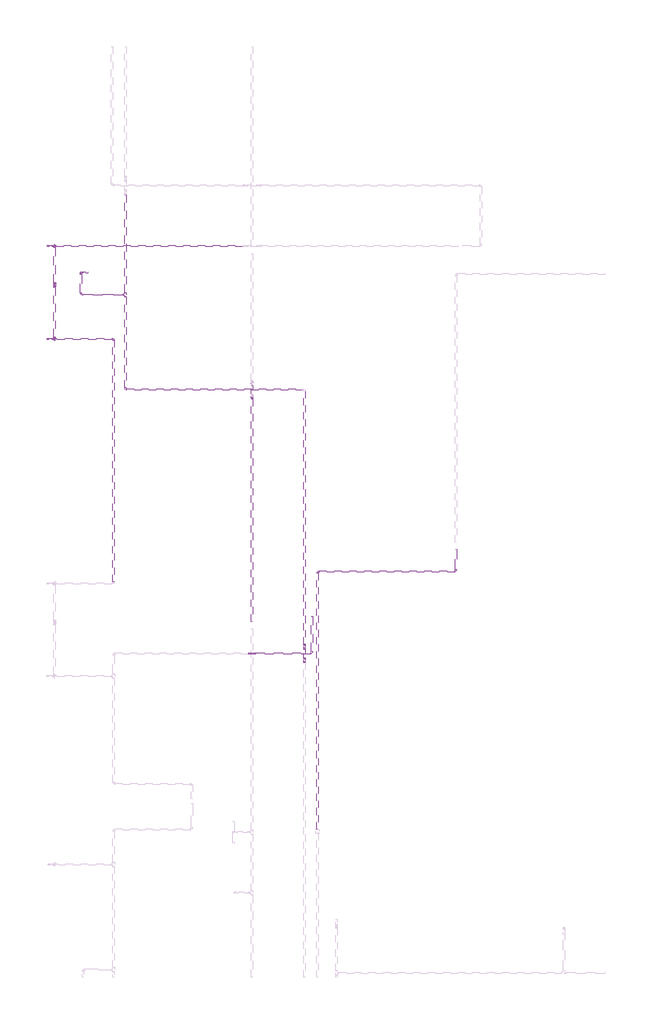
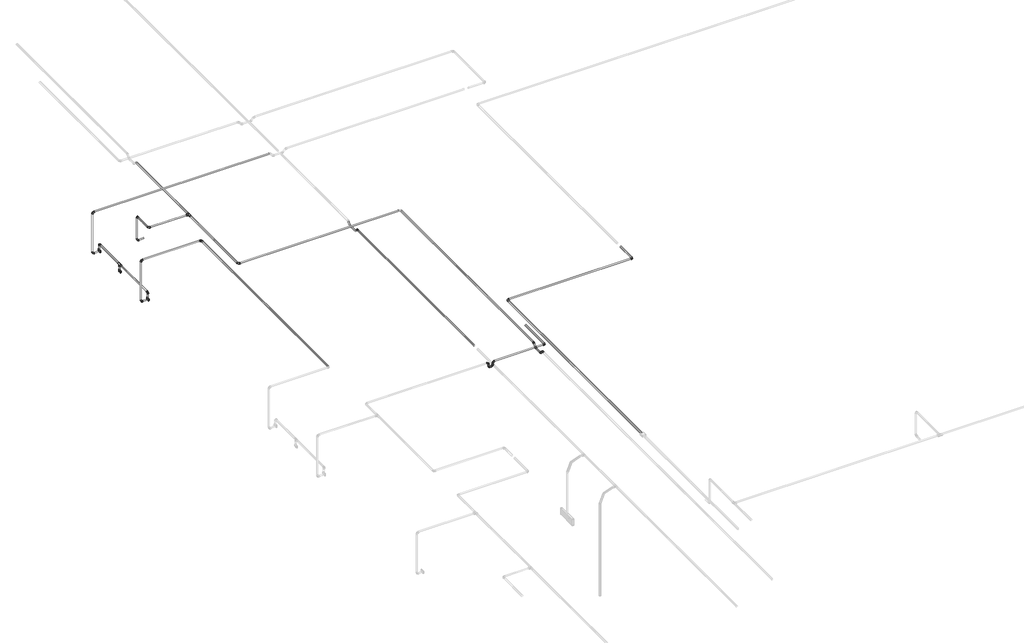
# One storey, part 16 of 40: 35 cable carrier segments, 25 cable carrier fittings, 3 electric appliances.
"""IFC4 building model written with IfcOpenShell, lengths in millimetres."""

from ifc_helpers import new_model, si_unit, point, frame, frame_2d, origin, place, context, project, spatial, circle_curve, trimmed, segment, composite_curve, outline, extrude, transform, mapped, element, save
from ifc_brep_helpers import plane_surface, cylinder_surface, advanced_brep
from components import cable_carrier_fitting_69f1a801, cable_carrier_fitting_8122f9af, cable_carrier_fitting_546e5f75, cable_carrier_fitting_8fd13dfc, cable_carrier_fitting_de8e6b1f, electric_appliance_5961a143

model = new_model("IFC4")

# Units and contexts
model_context = context("Model", 3, world=origin())
ifc_project = project(units=[si_unit("LENGTHUNIT", "METRE", prefix="MILLI")], contexts=[model_context])

# Site, building, storey
site = spatial("IfcSite", under=ifc_project)
building = spatial("IfcBuilding", under=site)
storey = spatial("IfcBuildingStorey", under=building, Name="1 этаж", Elevation=0.0)

# Cable carrier fittings
placement = place(None, origin())
cable_carrier_fitting_shape = cable_carrier_fitting_69f1a801(model_context)
element("IfcCableCarrierFitting", 1, ObjectType="ADSK_Поворот_Минимальный размер : Неспецифицируемый", at=placement, inside=storey, context=model_context, shape_type="MappedRepresentation", body=[
    mapped(cable_carrier_fitting_shape, transform((-38286.3240021, 14272.1370105, 2650.0), x_axis=(0.0, -1.0, 0.0), y_axis=(0.0, 0.0, -1.0), z_axis=(1.0, 0.0, 0.0))),
])
element("IfcCableCarrierFitting", 2, ObjectType="ADSK_Поворот_Минимальный размер : Неспецифицируемый", at=placement, inside=storey, context=model_context, shape_type="MappedRepresentation", body=[
    mapped(cable_carrier_fitting_shape, transform((-38386.5238077, 14272.1370105, 2534.0911237), x_axis=(0.0, 0.0, -1.0), y_axis=(1.0, 0.0, 0.0), z_axis=(0.0, -1.0, 0.0))),
])
element("IfcCableCarrierFitting", 3, ObjectType="ADSK_Поворот_Минимальный размер : Неспецифицируемый", at=placement, inside=storey, context=model_context, shape_type="MappedRepresentation", body=[
    mapped(cable_carrier_fitting_shape, transform((-38386.5238077, 15526.1370105, 2534.0911237), x_axis=(0.0, 0.0, -1.0), y_axis=(1.0, 0.0, 0.0), z_axis=(0.0, -1.0, 0.0))),
])
element("IfcCableCarrierFitting", 4, ObjectType="ADSK_Поворот_Минимальный размер : Неспецифицируемый", at=placement, inside=storey, context=model_context, shape_type="MappedRepresentation", body=[
    mapped(cable_carrier_fitting_shape, transform((-35592.7387758, 10024.6370105, 3120.0), x_axis=(0.0, 0.0, -1.0), y_axis=(-1.0, 0.0, 0.0), z_axis=(0.0, 1.0, 0.0))),
])
element("IfcCableCarrierFitting", 5, ObjectType="ADSK_Поворот_Минимальный размер : Неспецифицируемый", at=placement, inside=storey, context=model_context, shape_type="MappedRepresentation", body=[
    mapped(cable_carrier_fitting_shape, transform((-35653.9887758, 10024.6370105, 3120.0), x_axis=(-1.0, 0.0, 0.0), y_axis=(0.0, 0.0, 1.0), z_axis=(0.0, 1.0, 0.0))),
])
element("IfcCableCarrierFitting", 6, ObjectType="ADSK_Поворот_Минимальный размер : Неспецифицируемый", at=placement, inside=storey, context=model_context, shape_type="MappedRepresentation", body=[
    mapped(cable_carrier_fitting_shape, transform((-35653.9887758, 10024.6370105, 3187.0), x_axis=(0.0, 0.0, 1.0), y_axis=(-1.0, 0.0, 0.0), z_axis=(0.0, -1.0, 0.0))),
])
element("IfcCableCarrierFitting", 7, ObjectType="ADSK_Поворот_Минимальный размер : Неспецифицируемый", at=placement, inside=storey, context=model_context, shape_type="MappedRepresentation", body=[
    mapped(cable_carrier_fitting_shape, transform((-35592.7387758, 10024.6370105, 3187.0), x_axis=(0.0, 0.0, 1.0), y_axis=(1.0, 0.0, 0.0), z_axis=(0.0, 1.0, 0.0))),
])
element("IfcCableCarrierFitting", 8, ObjectType="ADSK_Поворот_Минимальный размер : Неспецифицируемый", at=placement, inside=storey, context=model_context, shape_type="MappedRepresentation", body=[
    mapped(cable_carrier_fitting_shape, transform((-34814.8240021, 10024.6370105, 3187.0), x_axis=(1.0, 0.0, 0.0), y_axis=(0.0, 1.0, 0.0), z_axis=(0.0, 0.0, 1.0))),
])
element("IfcCableCarrierFitting", 9, ObjectType="ADSK_Поворот_Минимальный размер : Неспецифицируемый", at=placement, inside=storey, context=model_context, shape_type="MappedRepresentation", body=[
    mapped(cable_carrier_fitting_shape, transform((-37929.5238077, 15167.1370105, 2797.4861504), x_axis=(-1.0, 0.0, 0.0), y_axis=(0.0, 0.0, 1.0), z_axis=(0.0, 1.0, 0.0))),
])
element("IfcCableCarrierFitting", 10, ObjectType="ADSK_Поворот_Минимальный размер : Неспецифицируемый", at=placement, inside=storey, context=model_context, shape_type="MappedRepresentation", body=[
    mapped(cable_carrier_fitting_shape, transform((-37332.3673182, 13587.1370105, 3180.0), x_axis=(0.0, -1.0, 0.0), y_axis=(1.0, 0.0, 0.0), z_axis=(0.0, 0.0, 1.0))),
])
element("IfcCableCarrierFitting", 11, ObjectType="ADSK_Поворот_Минимальный размер : Неспецифицируемый", at=placement, inside=storey, context=model_context, shape_type="MappedRepresentation", body=[
    mapped(cable_carrier_fitting_shape, transform((-37489.3240021, 14272.1370105, 3187.0), x_axis=(0.0, 1.0, 0.0), y_axis=(-1.0, 0.0, 0.0), z_axis=(0.0, 0.0, 1.0))),
])
element("IfcCableCarrierFitting", 12, ObjectType="ADSK_Поворот_Минимальный размер : Неспецифицируемый", at=placement, inside=storey, context=model_context, shape_type="MappedRepresentation", body=[
    mapped(cable_carrier_fitting_shape, transform((-38386.5238077, 14272.1370105, 3187.0), x_axis=(0.0, 0.0, 1.0), y_axis=(1.0, 0.0, 0.0), z_axis=(0.0, 1.0, 0.0))),
])
element("IfcCableCarrierFitting", 13, ObjectType="ADSK_Поворот_Минимальный размер : Неспецифицируемый", at=placement, inside=storey, context=model_context, shape_type="MappedRepresentation", body=[
    mapped(cable_carrier_fitting_shape, transform((-38286.3240021, 15526.1370105, 2650.0), x_axis=(0.0, 1.0, 0.0), y_axis=(0.0, 0.0, -1.0), z_axis=(-1.0, 0.0, 0.0))),
])
element("IfcCableCarrierFitting", 14, ObjectType="ADSK_Поворот_Минимальный размер : Неспецифицируемый", at=placement, inside=storey, context=model_context, shape_type="MappedRepresentation", body=[
    mapped(cable_carrier_fitting_shape, transform((-32867.3240048, 11132.4273918, 3189.9844055), x_axis=(0.9999999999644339, 0.0, -8.433993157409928e-06), y_axis=(0.0, 1.0, 0.0), z_axis=(8.433993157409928e-06, 0.0, 0.9999999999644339))),
])
element("IfcCableCarrierFitting", 15, ObjectType="ADSK_Поворот_Минимальный размер : Неспецифицируемый", at=placement, inside=storey, context=model_context, shape_type="MappedRepresentation", body=[
    mapped(cable_carrier_fitting_shape, transform((-34737.3240021, 11132.4273926, 3190.0), x_axis=(-0.9999999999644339, 0.0, 8.433993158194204e-06), y_axis=(0.0, -1.0, 0.0), z_axis=(8.433993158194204e-06, 0.0, 0.9999999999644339))),
])
element("IfcCableCarrierFitting", 16, ObjectType="ADSK_Поворот_Минимальный размер : Неспецифицируемый", at=placement, inside=storey, context=model_context, shape_type="MappedRepresentation", body=[
    mapped(cable_carrier_fitting_shape, transform((-38386.5238077, 15526.1370105, 3187.0), x_axis=(0.0, 0.0, 1.0), y_axis=(1.0, 0.0, 0.0), z_axis=(0.0, 1.0, 0.0))),
])
element("IfcCableCarrierFitting", 17, ObjectType="ADSK_Поворот_Минимальный размер : Неспецифицируемый", at=placement, inside=storey, context=model_context, shape_type="MappedRepresentation", body=[
    mapped(cable_carrier_fitting_shape, transform((-37929.5238077, 15167.1370105, 3180.0), x_axis=(0.0, 0.0, 1.0), y_axis=(0.0, -1.0, 0.0), z_axis=(1.0, 0.0, 0.0))),
])
element("IfcCableCarrierFitting", 18, ObjectType="ADSK_Поворот_Минимальный размер : Неспецифицируемый", at=placement, inside=storey, context=model_context, shape_type="MappedRepresentation", body=[
    mapped(cable_carrier_fitting_shape, transform((-37929.5238077, 14867.1370105, 3180.0), x_axis=(0.0, -1.0, 0.0), y_axis=(1.0, 0.0, 0.0), z_axis=(0.0, 0.0, 1.0))),
])
cable_carrier_fitting_2_shape = cable_carrier_fitting_8122f9af(model_context)
element("IfcCableCarrierFitting", 19, ObjectType="ADSK_Поворот_Минимальный размер : Неспецифицируемый", at=placement, inside=storey, context=model_context, shape_type="MappedRepresentation", body=[
    mapped(cable_carrier_fitting_2_shape, transform((-34914.8240021, 10091.2092818, 3130.0), x_axis=(0.0, -0.7071067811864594, -0.7071067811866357), y_axis=(0.0, -0.7071067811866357, 0.7071067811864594), z_axis=(-1.0, 0.0, 0.0))),
])
element("IfcCableCarrierFitting", 20, ObjectType="ADSK_Поворот_Минимальный размер : Неспецифицируемый", at=placement, inside=storey, context=model_context, shape_type="MappedRepresentation", body=[
    mapped(cable_carrier_fitting_2_shape, transform((-34914.8240021, 9958.0647393, 3130.0), x_axis=(0.0, -1.0, 0.0), y_axis=(0.0, 0.0, 1.0), z_axis=(-1.0, 0.0, 0.0))),
])
element("IfcCableCarrierFitting", 21, ObjectType="ADSK_Поворот_Минимальный размер : Неспецифицируемый", at=placement, inside=storey, context=model_context, shape_type="MappedRepresentation", body=[
    mapped(cable_carrier_fitting_2_shape, transform((-34914.8240021, 10141.2092818, 3180.0), x_axis=(0.0, 0.7071067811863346, 0.7071067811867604), y_axis=(0.0, 0.7071067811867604, -0.7071067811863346), z_axis=(-1.0, 0.0, 0.0))),
])
cable_carrier_fitting_3_shape = cable_carrier_fitting_546e5f75(model_context)
element("IfcCableCarrierFitting", 22, ObjectType="ADSK_Поворот_Минимальный размер : Неспецифицируемый", at=placement, inside=storey, context=model_context, shape_type="MappedRepresentation", body=[
    mapped(cable_carrier_fitting_3_shape, transform((-35623.0641762, 13470.565016, 3190.1475067), x_axis=(0.0, 0.9999999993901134, 3.49252536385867e-05), y_axis=(0.0, 3.49252536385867e-05, -0.9999999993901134), z_axis=(-1.0, 0.0, 0.0))),
])
cable_carrier_fitting_4_shape = cable_carrier_fitting_8fd13dfc(model_context)
element("IfcCableCarrierFitting", 23, ObjectType="ADSK_Тройник : ПВХ", at=placement, inside=storey, context=model_context, shape_type="MappedRepresentation", body=[
    mapped(cable_carrier_fitting_4_shape, transform((-38286.3240021, 14997.1370105, 2650.0), x_axis=(0.0, 1.0, 0.0), y_axis=(0.0, 0.0, 1.0), z_axis=(1.0, 0.0, 0.0))),
])
element("IfcCableCarrierFitting", 24, ObjectType="ADSK_Тройник : ПВХ", at=placement, inside=storey, context=model_context, shape_type="MappedRepresentation", body=[
    mapped(cable_carrier_fitting_4_shape, transform((-37332.3673182, 14867.1370105, 3180.0), x_axis=(0.0, -1.0, 0.0), y_axis=(1.0, 0.0, 0.0), z_axis=(0.0, 0.0, 1.0))),
])
cable_carrier_fitting_5_shape = cable_carrier_fitting_de8e6b1f(model_context)
element("IfcCableCarrierFitting", 25, ObjectType="ADSK_Поворот_Минимальный размер : Неспецифицируемый", at=placement, inside=storey, context=model_context, shape_type="MappedRepresentation", body=[
    mapped(cable_carrier_fitting_5_shape, transform((-34914.8240021, 9908.0802272, 3179.9845121), x_axis=(0.0, -0.7071067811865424, 0.7071067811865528), y_axis=(0.0, -0.7071067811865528, -0.7071067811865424), z_axis=(1.0, 0.0, 0.0))),
])

# Cable carrier segments
element("IfcCableCarrierSegment", 26, ObjectType="Гофрированная труба", at=placement, inside=storey, context=model_context, shape_type="SweptSolid", body=[
    extrude(outline(composite_curve([segment(trimmed(circle_curve(frame_2d((0.0, -10.0)), 10.0), [point((10.0, -10.0))], [point((0.0, -19.9999999))], False, "CARTESIAN"), True, "CONTINUOUS"), segment(trimmed(circle_curve(frame_2d((0.0, -10.0)), 10.0), [point((0.0, -19.9999999))], [point((-10.0, -10.0))], False, "CARTESIAN"), True, "CONTINUOUS"), segment(trimmed(circle_curve(frame_2d((0.0, -10.0)), 10.0), [point((-10.0, -10.0))], [point((0.0, 0.0))], False, "CARTESIAN"), True, "CONTINUOUS"), segment(trimmed(circle_curve(frame_2d((0.0, -10.0)), 10.0), [point((0.0, 0.0))], [point((10.0, -10.0))], False, "CARTESIAN"), True, "CONTINUOUS")], self_intersect=False)), frame((-35623.0641762, 13644.4132287, 3149.8481054), z_axis=(0.0, -0.9999958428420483, 0.0028834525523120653), x_axis=(1.0, 0.0, 0.0)), (0.0, 0.0, 1.0), 114.6272194),
])
element("IfcCableCarrierSegment", 27, ObjectType="Гофрированная труба", at=placement, inside=storey, context=model_context, shape_type="SweptSolid", body=[
    extrude(outline(composite_curve([segment(trimmed(circle_curve(frame_2d((3189.9844055, -32867.3240048)), 10.0), [point((3189.9844055, -32877.3240048))], [point((3179.9844055, -32867.3240048))], False, "CARTESIAN"), True, "CONTINUOUS"), segment(trimmed(circle_curve(frame_2d((3189.9844055, -32867.3240048)), 10.0), [point((3179.9844055, -32867.3240048))], [point((3189.9844055, -32857.3240048))], False, "CARTESIAN"), True, "CONTINUOUS"), segment(trimmed(circle_curve(frame_2d((3189.9844055, -32867.3240048)), 10.0), [point((3189.9844055, -32857.3240048))], [point((3199.9844055, -32867.3240048))], False, "CARTESIAN"), True, "CONTINUOUS"), segment(trimmed(circle_curve(frame_2d((3189.9844055, -32867.3240048)), 10.0), [point((3199.9844055, -32867.3240048))], [point((3189.9844055, -32877.3240048))], False, "CARTESIAN"), True, "CONTINUOUS")], self_intersect=False)), frame((0.0, 11153.4273918, 0.0), z_axis=(0.0, 1.0, 0.0), x_axis=(0.0, 0.0, 1.0)), (0.0, 0.0, 1.0), 278.9998105),
])
element("IfcCableCarrierSegment", 28, ObjectType="Гофрированная труба", at=placement, inside=storey, context=model_context, shape_type="AdvancedBrep", body=[
    advanced_brep(
    [(-32888.3240048, 11142.4273918, 3189.9845827), (-32888.3239214, 11132.4273918, 3199.9845827), (-32888.3240048, 11122.4273918, 3189.9845827), (-32888.3240881, 11132.4273918, 3179.9845827), (-34716.3240021, 11142.4273926, 3189.9998229), (-34716.3240855, 11132.4273926, 3179.9998229), (-34716.3240021, 11122.4273926, 3189.9998229), (-34716.3239187, 11132.4273926, 3199.9998229)],
    [
        (0, 1, circle_curve(frame((-32888.3240048, 11132.4273918, 3189.9845827), z_axis=(0.9999999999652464, 0.0, -8.337103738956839e-06), x_axis=(0.0, 1.0, 0.0)), 10.0)),
        (1, 2, circle_curve(frame((-32888.3240048, 11132.4273918, 3189.9845827), z_axis=(0.9999999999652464, 0.0, -8.337103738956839e-06), x_axis=(0.0, 1.0, 0.0)), 10.0)),
        (2, 3, circle_curve(frame((-32888.3240048, 11132.4273918, 3189.9845827), z_axis=(0.9999999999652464, 0.0, -8.337103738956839e-06), x_axis=(0.0, 1.0, 0.0)), 10.0)),
        (3, 0, circle_curve(frame((-32888.3240048, 11132.4273918, 3189.9845827), z_axis=(0.9999999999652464, 0.0, -8.337103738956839e-06), x_axis=(0.0, 1.0, 0.0)), 10.0)),
        (4, 5, circle_curve(frame((-34716.3240021, 11132.4273918, 3189.9998229), z_axis=(-0.9999999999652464, 0.0, 8.337103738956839e-06), x_axis=(0.0, 1.0, 0.0)), 10.0000008)),
        (5, 6, circle_curve(frame((-34716.3240021, 11132.4273918, 3189.9998229), z_axis=(-0.9999999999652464, 0.0, 8.337103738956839e-06), x_axis=(0.0, 1.0, 0.0)), 10.0)),
        (6, 7, circle_curve(frame((-34716.3240021, 11132.4273918, 3189.9998229), z_axis=(-0.9999999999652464, 0.0, 8.337103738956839e-06), x_axis=(0.0, 1.0, 0.0)), 9.9999992)),
        (7, 4, circle_curve(frame((-34716.3240021, 11132.4273918, 3189.9998229), z_axis=(-0.9999999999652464, 0.0, 8.337103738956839e-06), x_axis=(0.0, 1.0, 0.0)), 10.0)),
        (0, 4),
        (7, 1),
        (6, 2),
        (5, 3),
    ],
    [
        plane_surface(frame((-32888.3240881, 11132.4273918, 3179.9845827), z_axis=(0.9999999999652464, 0.0, -8.33710383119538e-06), x_axis=(0.0, -1.0, 0.0))),
        plane_surface(frame((-34716.3240855, 11132.4273926, 3179.9998229), z_axis=(-0.9999999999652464, 0.0, 8.33710383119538e-06), x_axis=(0.0, -1.0, 0.0))),
        cylinder_surface(frame((-32888.3240048, 11132.4273918, 3189.9845827), z_axis=(0.9999999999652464, 0.0, -8.337103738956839e-06), x_axis=(0.0, 1.0, 0.0)), 10.0),
    ],
    [
        (0, [[1, 2, 3, 4]]),
        (1, [[5, 6, 7, 8]]),
        (2, [[-1, 9, -8, 10]]),
        (2, [[-2, -10, -7, 11]]),
        (2, [[-3, -11, -6, 12]]),
        (2, [[-4, -12, -5, -9]]),
    ],
),
])
element("IfcCableCarrierSegment", 29, ObjectType="Гофрированная труба", at=placement, inside=storey, context=model_context, shape_type="SweptSolid", body=[
    extrude(outline(composite_curve([segment(trimmed(circle_curve(frame_2d((3190.0, -34737.3240021)), 10.0), [point((3190.0, -34747.3240021))], [point((3180.0, -34737.3240021))], False, "CARTESIAN"), True, "CONTINUOUS"), segment(trimmed(circle_curve(frame_2d((3190.0, -34737.3240021)), 10.0), [point((3180.0, -34737.3240021))], [point((3190.0, -34727.3240021))], False, "CARTESIAN"), True, "CONTINUOUS"), segment(trimmed(circle_curve(frame_2d((3190.0, -34737.3240021)), 10.0), [point((3190.0, -34727.3240021))], [point((3200.0, -34737.3240021))], False, "CARTESIAN"), True, "CONTINUOUS"), segment(trimmed(circle_curve(frame_2d((3190.0, -34737.3240021)), 10.0), [point((3200.0, -34737.3240021))], [point((3190.0, -34747.3240021))], False, "CARTESIAN"), True, "CONTINUOUS")], self_intersect=False)), frame((0.0, 7649.7184773, 0.0), z_axis=(0.0, 1.0, 0.0), x_axis=(0.0, 0.0, 1.0)), (0.0, 0.0, 1.0), 3461.7089154),
])
element("IfcCableCarrierSegment", 30, ObjectType="Гофрированная труба", at=placement, inside=storey, context=model_context, shape_type="SweptSolid", body=[
    extrude(outline(composite_curve([segment(trimmed(circle_curve(frame_2d((-38286.3240021, 14997.1370105)), 10.0), [point((-38276.3240021, 14997.1370105))], [point((-38286.3240021, 14987.1370105))], False, "CARTESIAN"), True, "CONTINUOUS"), segment(trimmed(circle_curve(frame_2d((-38286.3240021, 14997.1370105)), 10.0), [point((-38286.3240021, 14987.1370105))], [point((-38296.3240021, 14997.1370105))], False, "CARTESIAN"), True, "CONTINUOUS"), segment(trimmed(circle_curve(frame_2d((-38286.3240021, 14997.1370105)), 10.0), [point((-38296.3240021, 14997.1370105))], [point((-38286.3240021, 15007.1370105))], False, "CARTESIAN"), True, "CONTINUOUS"), segment(trimmed(circle_curve(frame_2d((-38286.3240021, 14997.1370105)), 10.0), [point((-38286.3240021, 15007.1370105))], [point((-38276.3240021, 14997.1370105))], False, "CARTESIAN"), True, "CONTINUOUS")], self_intersect=False)), frame((0.0, 0.0, 2563.1207114), z_axis=(0.0, 0.0, 1.0), x_axis=(1.0, 0.0, 0.0)), (0.0, 0.0, 1.0), 56.8792886),
])
element("IfcCableCarrierSegment", 31, ObjectType="Гофрированная труба", at=placement, inside=storey, context=model_context, shape_type="SweptSolid", body=[
    extrude(outline(composite_curve([segment(trimmed(circle_curve(frame_2d((-38286.3240021, 14272.1370105)), 10.0), [point((-38276.3240021, 14272.1370105))], [point((-38286.3240021, 14262.1370105))], False, "CARTESIAN"), True, "CONTINUOUS"), segment(trimmed(circle_curve(frame_2d((-38286.3240021, 14272.1370105)), 10.0), [point((-38286.3240021, 14262.1370105))], [point((-38296.3240021, 14272.1370105))], False, "CARTESIAN"), True, "CONTINUOUS"), segment(trimmed(circle_curve(frame_2d((-38286.3240021, 14272.1370105)), 10.0), [point((-38296.3240021, 14272.1370105))], [point((-38286.3240021, 14282.1370105))], False, "CARTESIAN"), True, "CONTINUOUS"), segment(trimmed(circle_curve(frame_2d((-38286.3240021, 14272.1370105)), 10.0), [point((-38286.3240021, 14282.1370105))], [point((-38276.3240021, 14272.1370105))], False, "CARTESIAN"), True, "CONTINUOUS")], self_intersect=False)), frame((0.0, 0.0, 2563.1207114), z_axis=(0.0, 0.0, 1.0), x_axis=(1.0, 0.0, 0.0)), (0.0, 0.0, 1.0), 65.8792886),
])
element("IfcCableCarrierSegment", 32, ObjectType="Гофрированная труба", at=placement, inside=storey, context=model_context, shape_type="SweptSolid", body=[
    extrude(outline(composite_curve([segment(trimmed(circle_curve(frame_2d((2650.0, -38286.3240021)), 10.0), [point((2650.0, -38296.3240021))], [point((2640.0, -38286.3240021))], False, "CARTESIAN"), True, "CONTINUOUS"), segment(trimmed(circle_curve(frame_2d((2650.0, -38286.3240021)), 10.0), [point((2640.0, -38286.3240021))], [point((2650.0, -38276.3240021))], False, "CARTESIAN"), True, "CONTINUOUS"), segment(trimmed(circle_curve(frame_2d((2650.0, -38286.3240021)), 10.0), [point((2650.0, -38276.3240021))], [point((2660.0, -38286.3240021))], False, "CARTESIAN"), True, "CONTINUOUS"), segment(trimmed(circle_curve(frame_2d((2650.0, -38286.3240021)), 10.0), [point((2660.0, -38286.3240021))], [point((2650.0, -38296.3240021))], False, "CARTESIAN"), True, "CONTINUOUS")], self_intersect=False)), frame((0.0, 14293.1370105, 0.0), z_axis=(0.0, 1.0, 0.0), x_axis=(0.0, 0.0, 1.0)), (0.0, 0.0, 1.0), 674.0),
])
element("IfcCableCarrierSegment", 33, ObjectType="Гофрированная труба", at=placement, inside=storey, context=model_context, shape_type="SweptSolid", body=[
    extrude(outline(composite_curve([segment(trimmed(circle_curve(frame_2d((-38286.3240021, 15526.1370105)), 10.0), [point((-38276.3240021, 15526.1370105))], [point((-38286.3240021, 15516.1370105))], False, "CARTESIAN"), True, "CONTINUOUS"), segment(trimmed(circle_curve(frame_2d((-38286.3240021, 15526.1370105)), 10.0), [point((-38286.3240021, 15516.1370105))], [point((-38296.3240021, 15526.1370105))], False, "CARTESIAN"), True, "CONTINUOUS"), segment(trimmed(circle_curve(frame_2d((-38286.3240021, 15526.1370105)), 10.0), [point((-38296.3240021, 15526.1370105))], [point((-38286.3240021, 15536.1370105))], False, "CARTESIAN"), True, "CONTINUOUS"), segment(trimmed(circle_curve(frame_2d((-38286.3240021, 15526.1370105)), 10.0), [point((-38286.3240021, 15536.1370105))], [point((-38276.3240021, 15526.1370105))], False, "CARTESIAN"), True, "CONTINUOUS")], self_intersect=False)), frame((0.0, 0.0, 2563.1207114), z_axis=(0.0, 0.0, 1.0), x_axis=(1.0, 0.0, 0.0)), (0.0, 0.0, 1.0), 65.8792886),
])
element("IfcCableCarrierSegment", 34, ObjectType="Гофрированная труба", at=placement, inside=storey, context=model_context, shape_type="SweptSolid", body=[
    extrude(outline(composite_curve([segment(trimmed(circle_curve(frame_2d((2650.0, -38286.3240021)), 10.0), [point((2650.0, -38296.3240021))], [point((2640.0, -38286.3240021))], False, "CARTESIAN"), True, "CONTINUOUS"), segment(trimmed(circle_curve(frame_2d((2650.0, -38286.3240021)), 10.0), [point((2640.0, -38286.3240021))], [point((2650.0, -38276.3240021))], False, "CARTESIAN"), True, "CONTINUOUS"), segment(trimmed(circle_curve(frame_2d((2650.0, -38286.3240021)), 10.0), [point((2650.0, -38276.3240021))], [point((2660.0, -38286.3240021))], False, "CARTESIAN"), True, "CONTINUOUS"), segment(trimmed(circle_curve(frame_2d((2650.0, -38286.3240021)), 10.0), [point((2660.0, -38286.3240021))], [point((2650.0, -38296.3240021))], False, "CARTESIAN"), True, "CONTINUOUS")], self_intersect=False)), frame((0.0, 15027.1370105, 0.0), z_axis=(0.0, 1.0, 0.0), x_axis=(0.0, 0.0, 1.0)), (0.0, 0.0, 1.0), 478.0),
])
element("IfcCableCarrierSegment", 35, ObjectType="Гофрированная труба", at=placement, inside=storey, context=model_context, shape_type="SweptSolid", body=[
    extrude(outline(composite_curve([segment(trimmed(circle_curve(frame_2d((15526.1370105, 2534.0911237)), 10.0), [point((15516.1370105, 2534.0911237))], [point((15526.1370105, 2544.0911237))], False, "CARTESIAN"), True, "CONTINUOUS"), segment(trimmed(circle_curve(frame_2d((15526.1370105, 2534.0911237)), 10.0), [point((15526.1370105, 2544.0911237))], [point((15536.1370105, 2534.0911237))], False, "CARTESIAN"), True, "CONTINUOUS"), segment(trimmed(circle_curve(frame_2d((15526.1370105, 2534.0911237)), 10.0), [point((15536.1370105, 2534.0911237))], [point((15526.1370105, 2524.0911237))], False, "CARTESIAN"), True, "CONTINUOUS"), segment(trimmed(circle_curve(frame_2d((15526.1370105, 2534.0911237)), 10.0), [point((15526.1370105, 2524.0911237))], [point((15516.1370105, 2534.0911237))], False, "CARTESIAN"), True, "CONTINUOUS")], self_intersect=False)), frame((-38365.5238077, 0.0, 0.0), z_axis=(1.0, 0.0, 0.0), x_axis=(0.0, 1.0, 0.0)), (0.0, 0.0, 1.0), 76.1998056),
])
element("IfcCableCarrierSegment", 36, ObjectType="Гофрированная труба", at=placement, inside=storey, context=model_context, shape_type="SweptSolid", body=[
    extrude(outline(composite_curve([segment(trimmed(circle_curve(frame_2d((-38386.5238077, 15526.1370105)), 10.0), [point((-38396.5238077, 15526.1370105))], [point((-38386.5238077, 15536.1370105))], False, "CARTESIAN"), True, "CONTINUOUS"), segment(trimmed(circle_curve(frame_2d((-38386.5238077, 15526.1370105)), 10.0), [point((-38386.5238077, 15536.1370105))], [point((-38376.5238077, 15526.1370105))], False, "CARTESIAN"), True, "CONTINUOUS"), segment(trimmed(circle_curve(frame_2d((-38386.5238077, 15526.1370105)), 10.0), [point((-38376.5238077, 15526.1370105))], [point((-38386.5238077, 15516.1370105))], False, "CARTESIAN"), True, "CONTINUOUS"), segment(trimmed(circle_curve(frame_2d((-38386.5238077, 15526.1370105)), 10.0), [point((-38386.5238077, 15516.1370105))], [point((-38396.5238077, 15526.1370105))], False, "CARTESIAN"), True, "CONTINUOUS")], self_intersect=False)), frame((0.0, 0.0, 2555.0911237), z_axis=(0.0, 0.0, 1.0), x_axis=(1.0, 0.0, 0.0)), (0.0, 0.0, 1.0), 610.9088763),
])
element("IfcCableCarrierSegment", 37, ObjectType="Гофрированная труба", at=placement, inside=storey, context=model_context, shape_type="SweptSolid", body=[
    extrude(outline(composite_curve([segment(trimmed(circle_curve(frame_2d((14272.1370105, 3187.0)), 10.0), [point((14282.1370105, 3187.0))], [point((14272.1370105, 3177.0))], False, "CARTESIAN"), True, "CONTINUOUS"), segment(trimmed(circle_curve(frame_2d((14272.1370105, 3187.0)), 10.0), [point((14272.1370105, 3177.0))], [point((14262.1370105, 3187.0))], False, "CARTESIAN"), True, "CONTINUOUS"), segment(trimmed(circle_curve(frame_2d((14272.1370105, 3187.0)), 10.0), [point((14262.1370105, 3187.0))], [point((14272.1370105, 3197.0))], False, "CARTESIAN"), True, "CONTINUOUS"), segment(trimmed(circle_curve(frame_2d((14272.1370105, 3187.0)), 10.0), [point((14272.1370105, 3197.0))], [point((14282.1370105, 3187.0))], False, "CARTESIAN"), True, "CONTINUOUS")], self_intersect=False)), frame((-38365.5238077, 0.0, 0.0), z_axis=(1.0, 0.0, 0.0), x_axis=(0.0, 1.0, 0.0)), (0.0, 0.0, 1.0), 855.1998056),
])
element("IfcCableCarrierSegment", 38, ObjectType="Гофрированная труба", at=placement, inside=storey, context=model_context, shape_type="SweptSolid", body=[
    extrude(outline(composite_curve([segment(trimmed(circle_curve(frame_2d((14272.1370105, 2534.0911237)), 10.0), [point((14262.1370105, 2534.0911237))], [point((14272.1370105, 2544.0911237))], False, "CARTESIAN"), True, "CONTINUOUS"), segment(trimmed(circle_curve(frame_2d((14272.1370105, 2534.0911237)), 10.0), [point((14272.1370105, 2544.0911237))], [point((14282.1370105, 2534.0911237))], False, "CARTESIAN"), True, "CONTINUOUS"), segment(trimmed(circle_curve(frame_2d((14272.1370105, 2534.0911237)), 10.0), [point((14282.1370105, 2534.0911237))], [point((14272.1370105, 2524.0911237))], False, "CARTESIAN"), True, "CONTINUOUS"), segment(trimmed(circle_curve(frame_2d((14272.1370105, 2534.0911237)), 10.0), [point((14272.1370105, 2524.0911237))], [point((14262.1370105, 2534.0911237))], False, "CARTESIAN"), True, "CONTINUOUS")], self_intersect=False)), frame((-38365.5238077, 0.0, 0.0), z_axis=(1.0, 0.0, 0.0), x_axis=(0.0, 1.0, 0.0)), (0.0, 0.0, 1.0), 76.1998056),
])
element("IfcCableCarrierSegment", 39, ObjectType="Гофрированная труба", at=placement, inside=storey, context=model_context, shape_type="SweptSolid", body=[
    extrude(outline(composite_curve([segment(trimmed(circle_curve(frame_2d((-38386.5238077, 14272.1370105)), 10.0), [point((-38396.5238077, 14272.1370105))], [point((-38386.5238077, 14282.1370105))], False, "CARTESIAN"), True, "CONTINUOUS"), segment(trimmed(circle_curve(frame_2d((-38386.5238077, 14272.1370105)), 10.0), [point((-38386.5238077, 14282.1370105))], [point((-38376.5238077, 14272.1370105))], False, "CARTESIAN"), True, "CONTINUOUS"), segment(trimmed(circle_curve(frame_2d((-38386.5238077, 14272.1370105)), 10.0), [point((-38376.5238077, 14272.1370105))], [point((-38386.5238077, 14262.1370105))], False, "CARTESIAN"), True, "CONTINUOUS"), segment(trimmed(circle_curve(frame_2d((-38386.5238077, 14272.1370105)), 10.0), [point((-38386.5238077, 14262.1370105))], [point((-38396.5238077, 14272.1370105))], False, "CARTESIAN"), True, "CONTINUOUS")], self_intersect=False)), frame((0.0, 0.0, 2555.0911237), z_axis=(0.0, 0.0, 1.0), x_axis=(1.0, 0.0, 0.0)), (0.0, 0.0, 1.0), 610.9088763),
])
element("IfcCableCarrierSegment", 40, ObjectType="Гофрированная труба", at=placement, inside=storey, context=model_context, shape_type="SweptSolid", body=[
    extrude(outline(composite_curve([segment(trimmed(circle_curve(frame_2d((3187.0, -34814.8240021)), 10.0), [point((3187.0, -34824.8240021))], [point((3177.0, -34814.8240021))], False, "CARTESIAN"), True, "CONTINUOUS"), segment(trimmed(circle_curve(frame_2d((3187.0, -34814.8240021)), 10.0), [point((3177.0, -34814.8240021))], [point((3187.0, -34804.8240021))], False, "CARTESIAN"), True, "CONTINUOUS"), segment(trimmed(circle_curve(frame_2d((3187.0, -34814.8240021)), 10.0), [point((3187.0, -34804.8240021))], [point((3197.0, -34814.8240021))], False, "CARTESIAN"), True, "CONTINUOUS"), segment(trimmed(circle_curve(frame_2d((3187.0, -34814.8240021)), 10.0), [point((3197.0, -34814.8240021))], [point((3187.0, -34824.8240021))], False, "CARTESIAN"), True, "CONTINUOUS")], self_intersect=False)), frame((0.0, 10045.6370105, 0.0), z_axis=(0.0, 1.0, 0.0), x_axis=(0.0, 0.0, 1.0)), (0.0, 0.0, 1.0), 479.0),
])
element("IfcCableCarrierSegment", 41, ObjectType="Гофрированная труба", at=placement, inside=storey, context=model_context, shape_type="SweptSolid", body=[
    extrude(outline(composite_curve([segment(trimmed(circle_curve(frame_2d((10024.6370105, 3187.0)), 10.0), [point((10014.6370105, 3187.0))], [point((10024.6370105, 3197.0))], False, "CARTESIAN"), True, "CONTINUOUS"), segment(trimmed(circle_curve(frame_2d((10024.6370105, 3187.0)), 10.0), [point((10024.6370105, 3197.0))], [point((10034.6370105, 3187.0))], False, "CARTESIAN"), True, "CONTINUOUS"), segment(trimmed(circle_curve(frame_2d((10024.6370105, 3187.0)), 10.0), [point((10034.6370105, 3187.0))], [point((10024.6370105, 3177.0))], False, "CARTESIAN"), True, "CONTINUOUS"), segment(trimmed(circle_curve(frame_2d((10024.6370105, 3187.0)), 10.0), [point((10024.6370105, 3177.0))], [point((10014.6370105, 3187.0))], False, "CARTESIAN"), True, "CONTINUOUS")], self_intersect=False)), frame((-35571.7387758, 0.0, 0.0), z_axis=(1.0, 0.0, 0.0), x_axis=(0.0, 1.0, 0.0)), (0.0, 0.0, 1.0), 735.9147737),
])
element("IfcCableCarrierSegment", 42, ObjectType="Гофрированная труба", at=placement, inside=storey, context=model_context, shape_type="SweptSolid", body=[
    extrude(outline(composite_curve([segment(trimmed(circle_curve(frame_2d((10024.6370105, 3120.0)), 10.0), [point((10034.6370105, 3120.0))], [point((10024.6370105, 3110.0))], False, "CARTESIAN"), True, "CONTINUOUS"), segment(trimmed(circle_curve(frame_2d((10024.6370105, 3120.0)), 10.0), [point((10024.6370105, 3110.0))], [point((10014.6370105, 3120.0))], False, "CARTESIAN"), True, "CONTINUOUS"), segment(trimmed(circle_curve(frame_2d((10024.6370105, 3120.0)), 10.0), [point((10014.6370105, 3120.0))], [point((10024.6370105, 3130.0))], False, "CARTESIAN"), True, "CONTINUOUS"), segment(trimmed(circle_curve(frame_2d((10024.6370105, 3120.0)), 10.0), [point((10024.6370105, 3130.0))], [point((10034.6370105, 3120.0))], False, "CARTESIAN"), True, "CONTINUOUS")], self_intersect=False)), frame((-35632.9887758, 0.0, 0.0), z_axis=(1.0, 0.0, 0.0), x_axis=(0.0, 1.0, 0.0)), (0.0, 0.0, 1.0), 19.25),
])
element("IfcCableCarrierSegment", 43, ObjectType="Гофрированная труба", at=placement, inside=storey, context=model_context, shape_type="SweptSolid", body=[
    extrude(outline(composite_curve([segment(trimmed(circle_curve(frame_2d((-35592.7387758, 10024.6370105)), 10.0), [point((-35582.7387758, 10024.6370105))], [point((-35592.7387758, 10014.6370105))], False, "CARTESIAN"), True, "CONTINUOUS"), segment(trimmed(circle_curve(frame_2d((-35592.7387758, 10024.6370105)), 10.0), [point((-35592.7387758, 10014.6370105))], [point((-35602.7387758, 10024.6370105))], False, "CARTESIAN"), True, "CONTINUOUS"), segment(trimmed(circle_curve(frame_2d((-35592.7387758, 10024.6370105)), 10.0), [point((-35602.7387758, 10024.6370105))], [point((-35592.7387758, 10034.6370105))], False, "CARTESIAN"), True, "CONTINUOUS"), segment(trimmed(circle_curve(frame_2d((-35592.7387758, 10024.6370105)), 10.0), [point((-35592.7387758, 10034.6370105))], [point((-35582.7387758, 10024.6370105))], False, "CARTESIAN"), True, "CONTINUOUS")], self_intersect=False)), frame((0.0, 0.0, 3141.0), z_axis=(0.0, 0.0, 1.0), x_axis=(1.0, 0.0, 0.0)), (0.0, 0.0, 1.0), 25.0),
])
element("IfcCableCarrierSegment", 44, ObjectType="Гофрированная труба", at=placement, inside=storey, context=model_context, shape_type="SweptSolid", body=[
    extrude(outline(composite_curve([segment(trimmed(circle_curve(frame_2d((-35653.9887758, 10024.6370105)), 10.0), [point((-35663.9887758, 10024.6370105))], [point((-35653.9887758, 10034.6370105))], False, "CARTESIAN"), True, "CONTINUOUS"), segment(trimmed(circle_curve(frame_2d((-35653.9887758, 10024.6370105)), 10.0), [point((-35653.9887758, 10034.6370105))], [point((-35643.9887758, 10024.6370105))], False, "CARTESIAN"), True, "CONTINUOUS"), segment(trimmed(circle_curve(frame_2d((-35653.9887758, 10024.6370105)), 10.0), [point((-35643.9887758, 10024.6370105))], [point((-35653.9887758, 10014.6370105))], False, "CARTESIAN"), True, "CONTINUOUS"), segment(trimmed(circle_curve(frame_2d((-35653.9887758, 10024.6370105)), 10.0), [point((-35653.9887758, 10014.6370105))], [point((-35663.9887758, 10024.6370105))], False, "CARTESIAN"), True, "CONTINUOUS")], self_intersect=False)), frame((0.0, 0.0, 3141.0), z_axis=(0.0, 0.0, 1.0), x_axis=(1.0, 0.0, 0.0)), (0.0, 0.0, 1.0), 25.0),
])
element("IfcCableCarrierSegment", 45, ObjectType="Гофрированная труба", at=placement, inside=storey, context=model_context, shape_type="SweptSolid", body=[
    extrude(outline(composite_curve([segment(trimmed(circle_curve(frame_2d((13587.1370105, 3180.0)), 10.0), [point((13577.1370105, 3180.0))], [point((13587.1370105, 3190.0))], False, "CARTESIAN"), True, "CONTINUOUS"), segment(trimmed(circle_curve(frame_2d((13587.1370105, 3180.0)), 10.0), [point((13587.1370105, 3190.0))], [point((13597.1370105, 3180.0))], False, "CARTESIAN"), True, "CONTINUOUS"), segment(trimmed(circle_curve(frame_2d((13587.1370105, 3180.0)), 10.0), [point((13597.1370105, 3180.0))], [point((13587.1370105, 3170.0))], False, "CARTESIAN"), True, "CONTINUOUS"), segment(trimmed(circle_curve(frame_2d((13587.1370105, 3180.0)), 10.0), [point((13587.1370105, 3170.0))], [point((13577.1370105, 3180.0))], False, "CARTESIAN"), True, "CONTINUOUS")], self_intersect=False)), frame((-37311.3673182, 0.0, 0.0), z_axis=(1.0, 0.0, 0.0), x_axis=(0.0, 1.0, 0.0)), (0.0, 0.0, 1.0), 2375.5433161),
])
element("IfcCableCarrierSegment", 46, ObjectType="Гофрированная труба", at=placement, inside=storey, context=model_context, shape_type="SweptSolid", body=[
    extrude(outline(composite_curve([segment(trimmed(circle_curve(frame_2d((3130.0, -34914.8240021)), 10.0), [point((3130.0, -34924.8240021))], [point((3120.0, -34914.8240021))], False, "CARTESIAN"), True, "CONTINUOUS"), segment(trimmed(circle_curve(frame_2d((3130.0, -34914.8240021)), 10.0), [point((3120.0, -34914.8240021))], [point((3130.0, -34904.8240021))], False, "CARTESIAN"), True, "CONTINUOUS"), segment(trimmed(circle_curve(frame_2d((3130.0, -34914.8240021)), 10.0), [point((3130.0, -34904.8240021))], [point((3140.0, -34914.8240021))], False, "CARTESIAN"), True, "CONTINUOUS"), segment(trimmed(circle_curve(frame_2d((3130.0, -34914.8240021)), 10.0), [point((3140.0, -34914.8240021))], [point((3130.0, -34924.8240021))], False, "CARTESIAN"), True, "CONTINUOUS")], self_intersect=False)), frame((0.0, 9967.3490105, 0.0), z_axis=(0.0, 1.0, 0.0), x_axis=(0.0, 0.0, 1.0)), (0.0, 0.0, 1.0), 114.576),
])
element("IfcCableCarrierSegment", 47, ObjectType="Гофрированная труба", at=placement, inside=storey, context=model_context, shape_type="SweptSolid", body=[
    extrude(outline(composite_curve([segment(trimmed(circle_curve(frame_2d((15167.1370105, 2797.4861504)), 10.0), [point((15177.1370105, 2797.4861504))], [point((15167.1370105, 2787.4861504))], False, "CARTESIAN"), True, "CONTINUOUS"), segment(trimmed(circle_curve(frame_2d((15167.1370105, 2797.4861504)), 10.0), [point((15167.1370105, 2787.4861504))], [point((15157.1370105, 2797.4861504))], False, "CARTESIAN"), True, "CONTINUOUS"), segment(trimmed(circle_curve(frame_2d((15167.1370105, 2797.4861504)), 10.0), [point((15157.1370105, 2797.4861504))], [point((15167.1370105, 2807.4861504))], False, "CARTESIAN"), True, "CONTINUOUS"), segment(trimmed(circle_curve(frame_2d((15167.1370105, 2797.4861504)), 10.0), [point((15167.1370105, 2807.4861504))], [point((15177.1370105, 2797.4861504))], False, "CARTESIAN"), True, "CONTINUOUS")], self_intersect=False)), frame((-37908.5238077, 0.0, 0.0), z_axis=(1.0, 0.0, 0.0), x_axis=(0.0, 1.0, 0.0)), (0.0, 0.0, 1.0), 76.1998056),
])
element("IfcCableCarrierSegment", 48, ObjectType="Гофрированная труба", at=placement, inside=storey, context=model_context, shape_type="SweptSolid", body=[
    extrude(outline(composite_curve([segment(trimmed(circle_curve(frame_2d((-37929.5238077, 15167.1370105)), 10.0), [point((-37939.5238077, 15167.1370105))], [point((-37929.5238077, 15177.1370105))], False, "CARTESIAN"), True, "CONTINUOUS"), segment(trimmed(circle_curve(frame_2d((-37929.5238077, 15167.1370105)), 10.0), [point((-37929.5238077, 15177.1370105))], [point((-37919.5238077, 15167.1370105))], False, "CARTESIAN"), True, "CONTINUOUS"), segment(trimmed(circle_curve(frame_2d((-37929.5238077, 15167.1370105)), 10.0), [point((-37919.5238077, 15167.1370105))], [point((-37929.5238077, 15157.1370105))], False, "CARTESIAN"), True, "CONTINUOUS"), segment(trimmed(circle_curve(frame_2d((-37929.5238077, 15167.1370105)), 10.0), [point((-37929.5238077, 15157.1370105))], [point((-37939.5238077, 15167.1370105))], False, "CARTESIAN"), True, "CONTINUOUS")], self_intersect=False)), frame((0.0, 0.0, 2818.4861504), z_axis=(0.0, 0.0, 1.0), x_axis=(1.0, 0.0, 0.0)), (0.0, 0.0, 1.0), 340.5138496),
])
element("IfcCableCarrierSegment", 49, ObjectType="Гофрированная труба", at=placement, inside=storey, context=model_context, shape_type="SweptSolid", body=[
    extrude(outline(composite_curve([segment(trimmed(circle_curve(frame_2d((3180.0, -37332.3673182)), 10.0), [point((3180.0, -37342.3673182))], [point((3170.0, -37332.3673182))], False, "CARTESIAN"), True, "CONTINUOUS"), segment(trimmed(circle_curve(frame_2d((3180.0, -37332.3673182)), 10.0), [point((3170.0, -37332.3673182))], [point((3180.0, -37322.3673182))], False, "CARTESIAN"), True, "CONTINUOUS"), segment(trimmed(circle_curve(frame_2d((3180.0, -37332.3673182)), 10.0), [point((3180.0, -37322.3673182))], [point((3190.0, -37332.3673182))], False, "CARTESIAN"), True, "CONTINUOUS"), segment(trimmed(circle_curve(frame_2d((3180.0, -37332.3673182)), 10.0), [point((3190.0, -37332.3673182))], [point((3180.0, -37342.3673182))], False, "CARTESIAN"), True, "CONTINUOUS")], self_intersect=False)), frame((0.0, 13608.1370105, 0.0), z_axis=(0.0, 1.0, 0.0), x_axis=(0.0, 0.0, 1.0)), (0.0, 0.0, 1.0), 1229.0),
])
element("IfcCableCarrierSegment", 50, ObjectType="Гофрированная труба", at=placement, inside=storey, context=model_context, shape_type="SweptSolid", body=[
    extrude(outline(composite_curve([segment(trimmed(circle_curve(frame_2d((0.0, 10.0)), 10.0), [point((0.0, 20.0))], [point((10.0, 10.0))], False, "CARTESIAN"), True, "CONTINUOUS"), segment(trimmed(circle_curve(frame_2d((0.0, 10.0)), 10.0), [point((10.0, 10.0))], [point((0.0, 0.0))], False, "CARTESIAN"), True, "CONTINUOUS"), segment(trimmed(circle_curve(frame_2d((0.0, 10.0)), 10.0), [point((0.0, 0.0))], [point((-10.0, 10.0))], False, "CARTESIAN"), True, "CONTINUOUS"), segment(trimmed(circle_curve(frame_2d((0.0, 10.0)), 10.0), [point((-10.0, 10.0))], [point((0.0, 20.0))], False, "CARTESIAN"), True, "CONTINUOUS")], self_intersect=False)), frame((-35633.0641762, 10451.1370105, 3190.0420524), z_axis=(0.0, 0.9999999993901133, 3.492525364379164e-05), x_axis=(0.0, -3.492525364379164e-05, 0.9999999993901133)), (0.0, 0.0, 1.0), 3010.1433269),
])
element("IfcCableCarrierSegment", 51, ObjectType="Гофрированная труба", at=placement, inside=storey, context=model_context, shape_type="SweptSolid", body=[
    extrude(outline(composite_curve([segment(trimmed(circle_curve(frame_2d((0.0, -10.0)), 10.0), [point((10.0, -10.0))], [point((0.0, -20.0))], False, "CARTESIAN"), True, "CONTINUOUS"), segment(trimmed(circle_curve(frame_2d((0.0, -10.0)), 10.0), [point((0.0, -20.0))], [point((-10.0, -10.0))], False, "CARTESIAN"), True, "CONTINUOUS"), segment(trimmed(circle_curve(frame_2d((0.0, -10.0)), 10.0), [point((-10.0, -10.0))], [point((0.0, 0.0))], False, "CARTESIAN"), True, "CONTINUOUS"), segment(trimmed(circle_curve(frame_2d((0.0, -10.0)), 10.0), [point((0.0, 0.0))], [point((10.0, -10.0))], False, "CARTESIAN"), True, "CONTINUOUS")], self_intersect=False)), frame((-35623.0641762, 13521.03715, 3153.8175084), z_axis=(0.0, -0.7071067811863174, 0.7071067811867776), x_axis=(1.0, 0.0, 0.0)), (0.0, 0.0, 1.0), 52.0936959),
])
element("IfcCableCarrierSegment", 52, ObjectType="Гофрированная труба", at=placement, inside=storey, context=model_context, shape_type="SweptSolid", body=[
    extrude(outline(composite_curve([segment(trimmed(circle_curve(frame_2d((0.0, 10.0)), 10.0), [point((10.0, 10.0))], [point((0.0, 0.0))], False, "CARTESIAN"), True, "CONTINUOUS"), segment(trimmed(circle_curve(frame_2d((0.0, 10.0)), 10.0), [point((0.0, 0.0))], [point((-10.0, 10.0))], False, "CARTESIAN"), True, "CONTINUOUS"), segment(trimmed(circle_curve(frame_2d((0.0, 10.0)), 10.0), [point((-10.0, 10.0))], [point((0.0, 20.0))], False, "CARTESIAN"), True, "CONTINUOUS"), segment(trimmed(circle_curve(frame_2d((0.0, 10.0)), 10.0), [point((0.0, 20.0))], [point((10.0, 10.0))], False, "CARTESIAN"), True, "CONTINUOUS")], self_intersect=False)), frame((-35623.0641762, 13653.2238, 3153.4855807), z_axis=(0.0, 0.7067102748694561, 0.7075030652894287), x_axis=(1.0, 0.0, 0.0)), (0.0, 0.0, 1.0), 52.1355911),
])
element("IfcCableCarrierSegment", 53, ObjectType="Гофрированная труба", at=placement, inside=storey, context=model_context, shape_type="SweptSolid", body=[
    extrude(outline(composite_curve([segment(trimmed(circle_curve(frame_2d((3180.0, -34914.8240021)), 10.0), [point((3180.0, -34924.8240021))], [point((3170.0, -34914.8240021))], False, "CARTESIAN"), True, "CONTINUOUS"), segment(trimmed(circle_curve(frame_2d((3180.0, -34914.8240021)), 10.0), [point((3170.0, -34914.8240021))], [point((3180.0, -34904.8240021))], False, "CARTESIAN"), True, "CONTINUOUS"), segment(trimmed(circle_curve(frame_2d((3180.0, -34914.8240021)), 10.0), [point((3180.0, -34904.8240021))], [point((3190.0, -34914.8240021))], False, "CARTESIAN"), True, "CONTINUOUS"), segment(trimmed(circle_curve(frame_2d((3180.0, -34914.8240021)), 10.0), [point((3190.0, -34914.8240021))], [point((3180.0, -34924.8240021))], False, "CARTESIAN"), True, "CONTINUOUS")], self_intersect=False)), frame((0.0, 10150.493553, 0.0), z_axis=(0.0, 1.0, 0.0), x_axis=(0.0, 0.0, 1.0)), (0.0, 0.0, 1.0), 3415.6434575),
])
element("IfcCableCarrierSegment", 54, ObjectType="Гофрированная труба", at=placement, inside=storey, context=model_context, shape_type="SweptSolid", body=[
    extrude(outline(composite_curve([segment(trimmed(circle_curve(frame_2d((0.0, -10.0000001)), 10.0), [point((-10.0, -10.0000001))], [point((0.0, 0.0))], False, "CARTESIAN"), True, "CONTINUOUS"), segment(trimmed(circle_curve(frame_2d((0.0, -10.0000001)), 10.0), [point((0.0, 0.0))], [point((10.0, -10.0000001))], False, "CARTESIAN"), True, "CONTINUOUS"), segment(trimmed(circle_curve(frame_2d((0.0, -10.0000001)), 10.0), [point((10.0, -10.0000001))], [point((0.0, -20.0))], False, "CARTESIAN"), True, "CONTINUOUS"), segment(trimmed(circle_curve(frame_2d((0.0, -10.0000001)), 10.0), [point((0.0, -20.0))], [point((-10.0, -10.0000001))], False, "CARTESIAN"), True, "CONTINUOUS")], self_intersect=False)), frame((-34914.8240021, 10104.8453207, 3129.4939033), z_axis=(0.0, 0.7071067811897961, 0.707106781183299), x_axis=(1.0, 0.0, 0.0)), (0.0, 0.0, 1.0), 52.1421356),
])
element("IfcCableCarrierSegment", 55, ObjectType="Гофрированная труба", at=placement, inside=storey, context=model_context, shape_type="SweptSolid", body=[
    extrude(outline(composite_curve([segment(trimmed(circle_curve(frame_2d((0.0, 10.0000001)), 10.0), [point((-10.0, 10.0000001))], [point((0.0, 20.0))], False, "CARTESIAN"), True, "CONTINUOUS"), segment(trimmed(circle_curve(frame_2d((0.0, 10.0000001)), 10.0), [point((0.0, 20.0))], [point((10.0, 10.0000001))], False, "CARTESIAN"), True, "CONTINUOUS"), segment(trimmed(circle_curve(frame_2d((0.0, 10.0000001)), 10.0), [point((10.0, 10.0000001))], [point((0.0, 0.0))], False, "CARTESIAN"), True, "CONTINUOUS"), segment(trimmed(circle_curve(frame_2d((0.0, 10.0000001)), 10.0), [point((0.0, 0.0))], [point((-10.0, 10.0000001))], False, "CARTESIAN"), True, "CONTINUOUS")], self_intersect=False)), frame((-34914.8240021, 9944.4287003, 3129.4939033), z_axis=(0.0, -0.7071067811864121, 0.7071067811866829), x_axis=(1.0, 0.0, 0.0)), (0.0, 0.0, 1.0), 52.1202464),
])
element("IfcCableCarrierSegment", 56, ObjectType="Гофрированная труба", at=placement, inside=storey, context=model_context, shape_type="SweptSolid", body=[
    extrude(outline(composite_curve([segment(trimmed(circle_curve(frame_2d((3180.0, -37332.3673182)), 10.0), [point((3180.0, -37342.3673182))], [point((3170.0, -37332.3673182))], False, "CARTESIAN"), True, "CONTINUOUS"), segment(trimmed(circle_curve(frame_2d((3180.0, -37332.3673182)), 10.0), [point((3170.0, -37332.3673182))], [point((3180.0, -37322.3673182))], False, "CARTESIAN"), True, "CONTINUOUS"), segment(trimmed(circle_curve(frame_2d((3180.0, -37332.3673182)), 10.0), [point((3180.0, -37322.3673182))], [point((3190.0, -37332.3673182))], False, "CARTESIAN"), True, "CONTINUOUS"), segment(trimmed(circle_curve(frame_2d((3180.0, -37332.3673182)), 10.0), [point((3190.0, -37332.3673182))], [point((3180.0, -37342.3673182))], False, "CARTESIAN"), True, "CONTINUOUS")], self_intersect=False)), frame((0.0, 14897.1370105, 0.0), z_axis=(0.0, 1.0, 0.0), x_axis=(0.0, 0.0, 1.0)), (0.0, 0.0, 1.0), 1320.9293063),
])
element("IfcCableCarrierSegment", 57, ObjectType="Гофрированная труба", at=placement, inside=storey, context=model_context, shape_type="SweptSolid", body=[
    extrude(outline(composite_curve([segment(trimmed(circle_curve(frame_2d((3187.0, -37489.3240021)), 10.0), [point((3187.0, -37479.3240021))], [point((3197.0, -37489.3240021))], False, "CARTESIAN"), True, "CONTINUOUS"), segment(trimmed(circle_curve(frame_2d((3187.0, -37489.3240021)), 10.0), [point((3197.0, -37489.3240021))], [point((3187.0, -37499.3240021))], False, "CARTESIAN"), True, "CONTINUOUS"), segment(trimmed(circle_curve(frame_2d((3187.0, -37489.3240021)), 10.0), [point((3187.0, -37499.3240021))], [point((3177.0, -37489.3240021))], False, "CARTESIAN"), True, "CONTINUOUS"), segment(trimmed(circle_curve(frame_2d((3187.0, -37489.3240021)), 10.0), [point((3177.0, -37489.3240021))], [point((3187.0, -37479.3240021))], False, "CARTESIAN"), True, "CONTINUOUS")], self_intersect=False)), frame((0.0, 10992.1370105, 0.0), z_axis=(0.0, 1.0, 0.0), x_axis=(0.0, 0.0, 1.0)), (0.0, 0.0, 1.0), 3259.0),
])
element("IfcCableCarrierSegment", 58, ObjectType="Гофрированная труба", at=placement, inside=storey, context=model_context, shape_type="SweptSolid", body=[
    extrude(outline(composite_curve([segment(trimmed(circle_curve(frame_2d((15526.1370105, 3187.0)), 10.0), [point((15516.1370105, 3187.0))], [point((15526.1370105, 3197.0))], False, "CARTESIAN"), True, "CONTINUOUS"), segment(trimmed(circle_curve(frame_2d((15526.1370105, 3187.0)), 10.0), [point((15526.1370105, 3197.0))], [point((15536.1370105, 3187.0))], False, "CARTESIAN"), True, "CONTINUOUS"), segment(trimmed(circle_curve(frame_2d((15526.1370105, 3187.0)), 10.0), [point((15536.1370105, 3187.0))], [point((15526.1370105, 3177.0))], False, "CARTESIAN"), True, "CONTINUOUS"), segment(trimmed(circle_curve(frame_2d((15526.1370105, 3187.0)), 10.0), [point((15526.1370105, 3177.0))], [point((15516.1370105, 3187.0))], False, "CARTESIAN"), True, "CONTINUOUS")], self_intersect=False)), frame((-38365.5238077, 0.0, 0.0), z_axis=(1.0, 0.0, 0.0), x_axis=(0.0, 1.0, 0.0)), (0.0, 0.0, 1.0), 2616.603089),
])
element("IfcCableCarrierSegment", 59, ObjectType="Гофрированная труба", at=placement, inside=storey, context=model_context, shape_type="SweptSolid", body=[
    extrude(outline(composite_curve([segment(trimmed(circle_curve(frame_2d((3180.0, -37929.5238077)), 10.0), [point((3180.0, -37939.5238077))], [point((3170.0, -37929.5238077))], False, "CARTESIAN"), True, "CONTINUOUS"), segment(trimmed(circle_curve(frame_2d((3180.0, -37929.5238077)), 10.0), [point((3170.0, -37929.5238077))], [point((3180.0, -37919.5238077))], False, "CARTESIAN"), True, "CONTINUOUS"), segment(trimmed(circle_curve(frame_2d((3180.0, -37929.5238077)), 10.0), [point((3180.0, -37919.5238077))], [point((3190.0, -37929.5238077))], False, "CARTESIAN"), True, "CONTINUOUS"), segment(trimmed(circle_curve(frame_2d((3180.0, -37929.5238077)), 10.0), [point((3190.0, -37929.5238077))], [point((3180.0, -37939.5238077))], False, "CARTESIAN"), True, "CONTINUOUS")], self_intersect=False)), frame((0.0, 14888.1370105, 0.0), z_axis=(0.0, 1.0, 0.0), x_axis=(0.0, 0.0, 1.0)), (0.0, 0.0, 1.0), 258.0),
])
element("IfcCableCarrierSegment", 60, ObjectType="Гофрированная труба", at=placement, inside=storey, context=model_context, shape_type="SweptSolid", body=[
    extrude(outline(composite_curve([segment(trimmed(circle_curve(frame_2d((14867.1370105, 3180.0)), 10.0), [point((14877.1370105, 3180.0))], [point((14867.1370105, 3170.0))], False, "CARTESIAN"), True, "CONTINUOUS"), segment(trimmed(circle_curve(frame_2d((14867.1370105, 3180.0)), 10.0), [point((14867.1370105, 3170.0))], [point((14857.1370105, 3180.0))], False, "CARTESIAN"), True, "CONTINUOUS"), segment(trimmed(circle_curve(frame_2d((14867.1370105, 3180.0)), 10.0), [point((14857.1370105, 3180.0))], [point((14867.1370105, 3190.0))], False, "CARTESIAN"), True, "CONTINUOUS"), segment(trimmed(circle_curve(frame_2d((14867.1370105, 3180.0)), 10.0), [point((14867.1370105, 3190.0))], [point((14877.1370105, 3180.0))], False, "CARTESIAN"), True, "CONTINUOUS")], self_intersect=False)), frame((-37908.5238077, 0.0, 0.0), z_axis=(1.0, 0.0, 0.0), x_axis=(0.0, 1.0, 0.0)), (0.0, 0.0, 1.0), 546.1564895),
])

# Electric appliances
electric_appliance_shape = electric_appliance_5961a143(model_context)
element("IfcElectricAppliance", 61, ObjectType="RBZ_Извещатель_ОхранныйМагнитоуправляемый _Рубеж_ИО 10220-2(грань) : ИО 10220-2", at=placement, inside=storey, context=model_context, shape_type="MappedRepresentation", body=[
    mapped(electric_appliance_shape, transform((-38289.3240021, 14272.1370105, 2546.0), x_axis=(0.0, -1.0, 0.0), y_axis=(0.0, 0.0, -1.0), z_axis=(1.0, 0.0, 0.0))),
])
element("IfcElectricAppliance", 62, ObjectType="RBZ_Извещатель_ОхранныйМагнитоуправляемый _Рубеж_ИО 10220-2(грань) : ИО 10220-2", at=placement, inside=storey, context=model_context, shape_type="MappedRepresentation", body=[
    mapped(electric_appliance_shape, transform((-38289.3240021, 15526.1370105, 2546.0), x_axis=(0.0, -1.0, 0.0), y_axis=(0.0, 0.0, -1.0), z_axis=(1.0, 0.0, 0.0))),
])
element("IfcElectricAppliance", 63, ObjectType="RBZ_Извещатель_ОхранныйМагнитоуправляемый _Рубеж_ИО 10220-2(грань) : ИО 10220-2", at=placement, inside=storey, context=model_context, shape_type="MappedRepresentation", body=[
    mapped(electric_appliance_shape, transform((-38289.3240021, 14997.1370105, 2546.0), x_axis=(0.0, -1.0, 0.0), y_axis=(0.0, 0.0, -1.0), z_axis=(1.0, 0.0, 0.0))),
])

save(model, "model.ifc")
